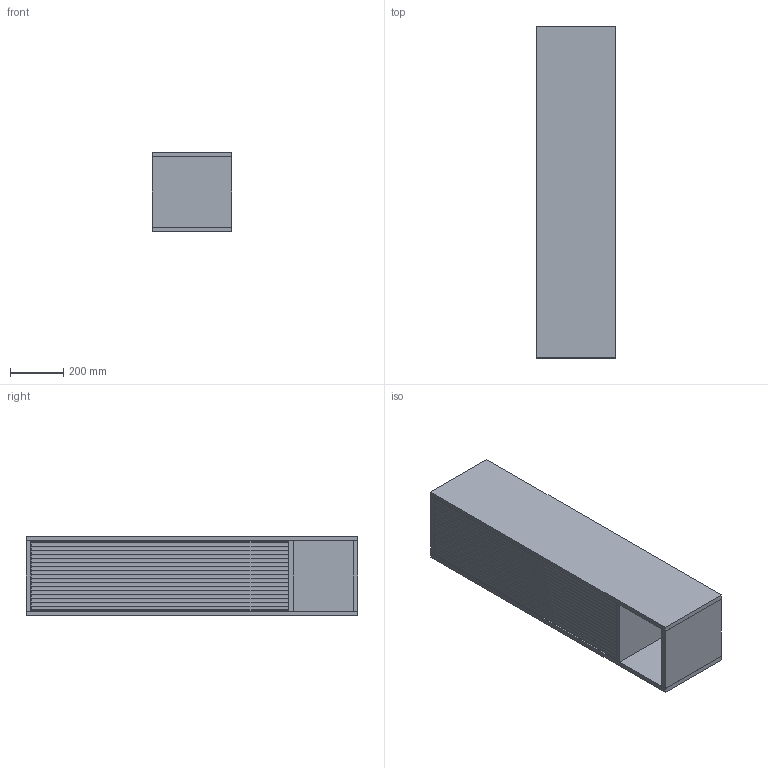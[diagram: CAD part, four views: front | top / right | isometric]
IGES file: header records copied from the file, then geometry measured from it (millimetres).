
Global section: file name: 3D Dosyası,; native system: Autodesk Inventor 2024; preprocessor: unknown; author: pc19; date: 20240717.094629; units: inch
Bounding box: 300 x 1250 x 300 mm (x, y, z)
Volume: 26857187.8 mm3; surface area: 3769902.4 mm2
Topology: 9 solids, 9 shells, 268 faces, 670 edges, 492 vertices
Faces by surface type: bspline 268
